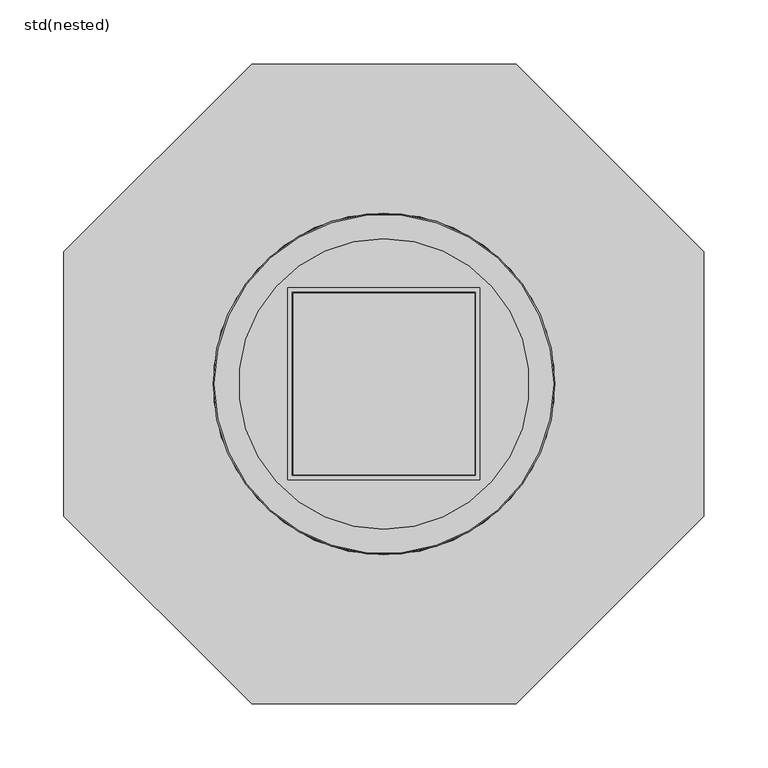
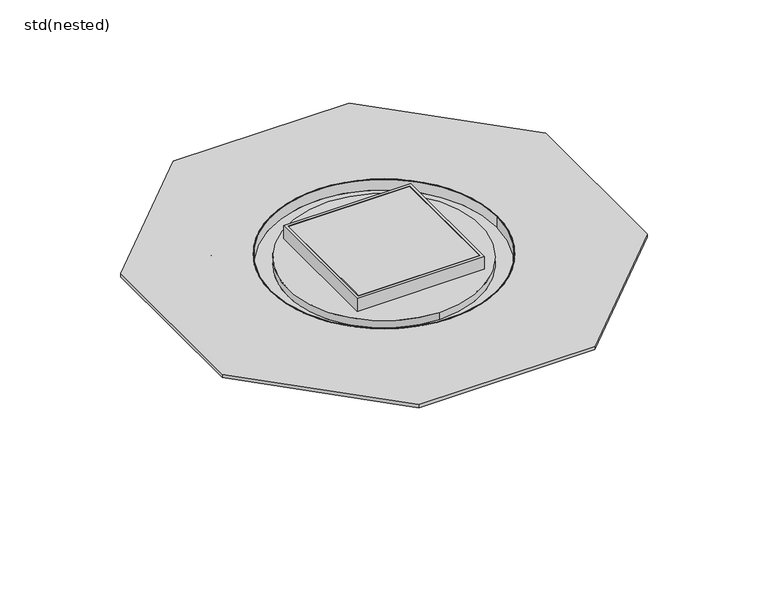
"""IFC4 building model written with IfcOpenShell, lengths in millimetres: sanitary terminal geometry, ZZZ_do not use_PF_ST_WPB_floor drain composite sealing_CR 142_ACO : std(nested)."""

from ifc_helpers import new_model, si_unit, point, frame, origin, origin_2d, place, context, project, spatial, polyline, circle_curve, trimmed, segment, composite_curve, outline, extrude, faceted_brep, source, transform, mapped, element, save
from ifc_brep_helpers import plane_surface, cylinder_surface, revolved_surface, advanced_brep


def std_nested_5c42c778(model_context):
    return source(origin(), model_context, "Body", "SolidModel", [
        advanced_brep(
        [(-62.5, 0.0, -147.0), (62.5, 0.0, -147.0), (62.5, 0.0, -37.0), (-62.5, 0.0, -37.0), (0.0, 177.0, -23.0), (0.0, -177.0, -23.0), (159.5, 0.0, -23.0), (-159.5, 0.0, -23.0), (0.0, 177.0, -20.0), (0.0, -177.0, -20.0), (133.5, 0.0, -20.0), (0.0, -133.5, -20.0), (-133.5, 0.0, -20.0), (0.0, 133.5, -20.0), (0.0, -113.5, -20.0), (0.0, 113.5, -20.0), (-159.5, 0.0, -37.0), (159.5, 0.0, -37.0), (133.5, 0.0, -16.0), (-133.5, 0.0, -16.0), (132.5, 0.0, -16.0), (-132.5, 0.0, -16.0), (-132.5, 0.0, -29.0), (132.5, 0.0, -29.0), (0.0, 113.5, -29.0), (0.0, -113.5, -29.0), (0.0, 113.5, -25.0), (0.0, 113.5, -21.0), (0.0, -113.5, -21.0), (0.0, -113.5, -25.0)],
        [
            (0, 1, circle_curve(frame((0.0, 0.0, -147.0), z_axis=(0.0, 0.0, -1.0), x_axis=(1.0, 0.0, 0.0)), 62.5)),
            (1, 0, circle_curve(frame((0.0, 0.0, -147.0), z_axis=(0.0, 0.0, -1.0), x_axis=(1.0, 0.0, 0.0)), 62.5)),
            (1, 2),
            (2, 3, circle_curve(frame((0.0, 0.0, -37.0), z_axis=(0.0, 0.0, -1.0), x_axis=(1.0, 0.0, 0.0)), 62.5)),
            (3, 0),
            (3, 2, circle_curve(frame((0.0, 0.0, -37.0), z_axis=(0.0, 0.0, -1.0), x_axis=(1.0, 0.0, 0.0)), 62.5)),
            (4, 5, circle_curve(frame((0.0, 0.0, -23.0), z_axis=(0.0, 0.0, -1.0), x_axis=(0.0, -1.0, 0.0)), 177.0)),
            (5, 4, circle_curve(frame((0.0, 0.0, -23.0), z_axis=(0.0, 0.0, -1.0), x_axis=(0.0, -1.0, 0.0)), 177.0)),
            (6, 7, circle_curve(frame((0.0, 0.0, -23.0), z_axis=(0.0, 0.0, 1.0), x_axis=(1.0, 0.0, 0.0)), 159.5)),
            (7, 6, circle_curve(frame((0.0, 0.0, -23.0), z_axis=(0.0, 0.0, 1.0), x_axis=(1.0, 0.0, 0.0)), 159.5)),
            (8, 9, circle_curve(frame((0.0, 0.0, -20.0), z_axis=(0.0, 0.0, 1.0), x_axis=(0.0, -1.0, 0.0)), 177.0)),
            (9, 8, circle_curve(frame((0.0, 0.0, -20.0), z_axis=(0.0, 0.0, 1.0), x_axis=(0.0, -1.0, 0.0)), 177.0)),
            (10, 11, circle_curve(frame((0.0, 0.0, -20.0), z_axis=(0.0, 0.0, -1.0), x_axis=(-1.0, 0.0, 0.0)), 133.5)),
            (11, 12, circle_curve(frame((0.0, 0.0, -20.0), z_axis=(0.0, 0.0, -1.0), x_axis=(-1.0, 0.0, 0.0)), 133.5)),
            (12, 13, circle_curve(frame((0.0, 0.0, -20.0), z_axis=(0.0, 0.0, -1.0), x_axis=(-1.0, 0.0, 0.0)), 133.5)),
            (13, 10, circle_curve(frame((0.0, 0.0, -20.0), z_axis=(0.0, 0.0, -1.0), x_axis=(-1.0, 0.0, 0.0)), 133.5)),
            (14, 15, circle_curve(frame((0.0, 0.0, -20.0), z_axis=(0.0, 0.0, 1.0), x_axis=(0.0, -1.0, 0.0)), 113.5)),
            (15, 14, circle_curve(frame((0.0, 0.0, -20.0), z_axis=(0.0, 0.0, 1.0), x_axis=(0.0, -1.0, 0.0)), 113.5)),
            (5, 9),
            (8, 4),
            (16, 17, circle_curve(frame((0.0, 0.0, -37.0), z_axis=(0.0, 0.0, -1.0), x_axis=(1.0, 0.0, 0.0)), 159.5)),
            (17, 16, circle_curve(frame((0.0, 0.0, -37.0), z_axis=(0.0, 0.0, -1.0), x_axis=(1.0, 0.0, 0.0)), 159.5)),
            (16, 7),
            (6, 17),
            (18, 19, circle_curve(frame((0.0, 0.0, -16.0), z_axis=(0.0, 0.0, 1.0), x_axis=(-1.0, 0.0, 0.0)), 133.5)),
            (19, 18, circle_curve(frame((0.0, 0.0, -16.0), z_axis=(0.0, 0.0, 1.0), x_axis=(-1.0, 0.0, 0.0)), 133.5)),
            (20, 21, circle_curve(frame((0.0, 0.0, -16.0), z_axis=(0.0, 0.0, -1.0), x_axis=(-1.0, 0.0, 0.0)), 132.5)),
            (21, 20, circle_curve(frame((0.0, 0.0, -16.0), z_axis=(0.0, 0.0, -1.0), x_axis=(-1.0, 0.0, 0.0)), 132.5)),
            (21, 22),
            (22, 23, circle_curve(frame((0.0, 0.0, -29.0), z_axis=(0.0, 0.0, -1.0), x_axis=(-1.0, 0.0, 0.0)), 132.5)),
            (23, 20),
            (23, 22, circle_curve(frame((0.0, 0.0, -29.0), z_axis=(0.0, 0.0, -1.0), x_axis=(-1.0, 0.0, 0.0)), 132.5)),
            (19, 12),
            (10, 18),
            (24, 25, circle_curve(frame((0.0, 0.0, -29.0), z_axis=(0.0, 0.0, -1.0), x_axis=(0.0, -1.0, 0.0)), 113.5)),
            (25, 24, circle_curve(frame((0.0, 0.0, -29.0), z_axis=(0.0, 0.0, -1.0), x_axis=(0.0, -1.0, 0.0)), 113.5)),
            (24, 26),
            (26, 27),
            (27, 15),
            (14, 28),
            (28, 29),
            (29, 25),
        ],
        [
            plane_surface(frame((62.5, 0.0, -147.0), z_axis=(0.0, 0.0, -1.0), x_axis=(0.0, -1.0, 0.0))),
            cylinder_surface(frame((0.0, 0.0, -147.0), z_axis=(0.0, 0.0, 1.0), x_axis=(1.0, 0.0, 0.0)), 62.5),
            plane_surface(frame((0.0, -177.0, -23.0), z_axis=(0.0, 0.0, -1.0), x_axis=(-1.0, 0.0, 0.0))),
            plane_surface(frame((0.0, -177.0, -20.0), z_axis=(0.0, 0.0, 1.0), x_axis=(1.0, 0.0, 0.0))),
            cylinder_surface(frame((0.0, 0.0, -20.0), z_axis=(0.0, 0.0, -1.0), x_axis=(0.0, -1.0, 0.0)), 177.0),
            plane_surface(frame((159.5, 0.0, -37.0), z_axis=(0.0, 0.0, -1.0), x_axis=(0.0, -1.0, 0.0))),
            cylinder_surface(frame((0.0, 0.0, -23.0), z_axis=(0.0, 0.0, -1.0), x_axis=(1.0, 0.0, 0.0)), 159.5),
            plane_surface(frame((-132.5, 0.0, -16.0), z_axis=(0.0, 0.0, 1.0), x_axis=(0.0, 1.0, 0.0))),
            revolved_surface(polyline([(-132.5, 0.0, -29.0), (-132.5, 0.0, -16.0)]), (0.0, 0.0, -29.0), (0.0, 0.0, -1.0)),
            cylinder_surface(frame((0.0, 0.0, -16.0), z_axis=(0.0, 0.0, 1.0), x_axis=(-1.0, 0.0, 0.0)), 133.5),
            plane_surface(frame((0.0, -113.5, -29.0), z_axis=(0.0, 0.0, 1.0), x_axis=(1.0, 0.0, 0.0))),
            cylinder_surface(frame((0.0, 0.0, -16.0), z_axis=(0.0, 0.0, 1.0), x_axis=(0.0, -1.0, 0.0)), 113.5),
        ],
        [
            (0, [[1, 2]]),
            (1, [[-2, 3, 4, 5]]),
            (1, [[-1, -5, 6, -3]]),
            (2, [[7, 8], [9, 10]]),
            (3, [[11, 12], [13, 14, 15, 16]]),
            (3, [[17, 18]]),
            (4, [[-8, 19, -11, 20]]),
            (4, [[-7, -20, -12, -19]]),
            (5, [[21, 22], [-4, -6]]),
            (6, [[-21, 23, -9, 24]]),
            (6, [[-22, -24, -10, -23]]),
            (7, [[25, 26], [27, 28]]),
            (8, [[-28, 29, 30, 31]]),
            (8, [[-27, -31, 32, -29]]),
            (9, [[-26, 33, -14, -13, 34]]),
            (9, [[-25, -34, -16, -15, -33]]),
            (10, [[-30, -32], [35, 36]]),
            (11, [[-35, 37, 38, 39, -17, 40, 41, 42]]),
            (11, [[-36, -42, -41, -40, -18, -39, -38, -37]]),
        ],
    ),
        faceted_brep([(75.0, 75.0, 0.0), (75.0, -75.0, 0.0), (75.0, -75.0, -16.0), (75.0, 75.0, -16.0), (71.5, -71.5, 0.0), (71.5, 71.5, 0.0), (71.5, 71.5, -16.0), (71.5, -71.5, -16.0), (-75.0, -75.0, 0.0), (-75.0, -75.0, -16.0), (-71.5, -71.5, 0.0), (-71.5, -71.5, -16.0), (-75.0, 75.0, 0.0), (-75.0, 75.0, -16.0), (-71.5, 71.5, 0.0), (-71.5, 71.5, -16.0)], [[[0, 1, 2, 3]], [[4, 5, 6, 7]], [[1, 8, 9, 2]], [[10, 4, 7, 11]], [[8, 12, 13, 9]], [[14, 10, 11, 15]], [[1, 0, 12, 8], [5, 4, 10, 14]], [[12, 0, 3, 13]], [[5, 14, 15, 6]], [[3, 2, 9, 13], [7, 6, 15, 11]]]),
        extrude(outline(polyline([(71.0, -71.0), (-71.0, -71.0), (-71.0, 71.0), (71.0, 71.0), (71.0, -71.0)])), frame((0.0, 0.0, -16.0), z_axis=(0.0, 0.0, 1.0), x_axis=(1.0, 0.0, 0.0)), (0.0, 0.0, 1.0), 16.0),
        extrude(outline(polyline([(-250.0, 103.5), (-103.5, 250.0), (103.5, 250.0), (250.0, 103.5), (250.0, -103.5), (103.5, -250.0), (-103.5, -250.0), (-250.0, -103.5), (-250.0, 103.5)]), holes=[composite_curve([segment(trimmed(circle_curve(origin_2d(), 133.5), [point((0.0, 133.5))], [point((0.0, -133.5))], True, "CARTESIAN"), True, "CONTINUOUS"), segment(trimmed(circle_curve(origin_2d(), 133.5), [point((0.0, -133.5))], [point((0.0, 133.5))], True, "CARTESIAN"), True, "CONTINUOUS")], self_intersect=False)]), frame((0.0, 0.0, -20.0), z_axis=(0.0, 0.0, 1.0), x_axis=(1.0, 0.0, 0.0)), (0.0, 0.0, 1.0), 4.0),
    ])


if __name__ == "__main__":
    model = new_model("IFC4")
    model_context = context("Model", 3, world=origin())
    ifc_project = project(units=[si_unit("LENGTHUNIT", "METRE", prefix="MILLI")], contexts=[model_context])
    site = spatial("IfcSite", under=ifc_project)
    building = spatial("IfcBuilding", under=site)
    placement = place(None, origin())
    std_nested_shape = std_nested_5c42c778(model_context)
    element("IfcSanitaryTerminal", 1, ObjectType="ZZZ_do not use_PF_ST_WPB_floor drain composite sealing_CR 142_ACO : std(nested)", at=placement, inside=building, context=model_context, shape_type="MappedRepresentation", body=[
        mapped(std_nested_shape, transform((0.0, 0.0, 0.0), x_axis=(1.0, 0.0, 0.0), y_axis=(0.0, 1.0, 0.0), z_axis=(0.0, 0.0, 1.0))),
    ])
    save(model, "model.ifc")
